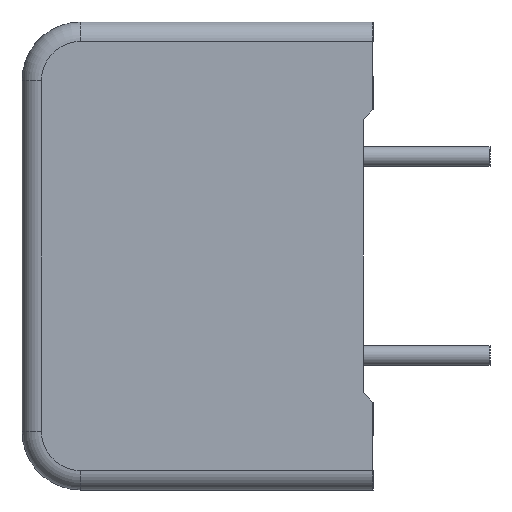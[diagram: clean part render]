
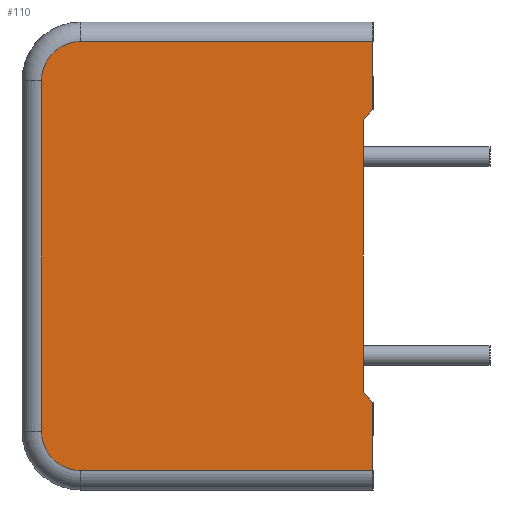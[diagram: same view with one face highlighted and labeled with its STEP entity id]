
A CAD part, left-side view. The second image highlights one B-rep face of the part: STEP entity #110.
In plain terms, the highlighted planar face has unit normal (-1, 0, 0).
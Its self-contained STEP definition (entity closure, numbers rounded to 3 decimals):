
#43 = CARTESIAN_POINT ( 'NONE',  ( -21., 18., -11. ) ) ;
#82 = DIRECTION ( 'NONE',  ( 0., 0., 1. ) ) ;
#110 = ADVANCED_FACE ( 'NONE', ( #620 ), #1619, .F. ) ;
#243 = CARTESIAN_POINT ( 'NONE',  ( -21., 15., -11. ) ) ;
#297 = DIRECTION ( 'NONE',  ( 0., 0., -1. ) ) ;
#408 = VERTEX_POINT ( 'NONE', #3155 ) ;
#590 = DIRECTION ( 'NONE',  ( 0., 0., -1. ) ) ;
#609 = LINE ( 'NONE', #4419, #4493 ) ;
#620 = FACE_OUTER_BOUND ( 'NONE', #1676, .T. ) ;
#663 = CARTESIAN_POINT ( 'NONE',  ( -21., 0., -12. ) ) ;
#707 = CARTESIAN_POINT ( 'NONE',  ( -21., 0.5, 7. ) ) ;
#761 = VERTEX_POINT ( 'NONE', #2085 ) ;
#849 = CARTESIAN_POINT ( 'NONE',  ( -21., 17., 9. ) ) ;
#858 = VERTEX_POINT ( 'NONE', #1442 ) ;
#901 = DIRECTION ( 'NONE',  ( 0., -1., 0. ) ) ;
#912 = VERTEX_POINT ( 'NONE', #1081 ) ;
#1047 = DIRECTION ( 'NONE',  ( 0., -0.707, 0.707 ) ) ;
#1053 = CARTESIAN_POINT ( 'NONE',  ( -21., 17., -9. ) ) ;
#1066 = CIRCLE ( 'NONE', #2297, 2. ) ;
#1081 = CARTESIAN_POINT ( 'NONE',  ( -21., 0., 11. ) ) ;
#1184 = CARTESIAN_POINT ( 'NONE',  ( -21., 0., -7.5 ) ) ;
#1216 = VERTEX_POINT ( 'NONE', #1422 ) ;
#1263 = CARTESIAN_POINT ( 'NONE',  ( -21., 0., -11. ) ) ;
#1389 = DIRECTION ( 'NONE',  ( 0., 0., -1. ) ) ;
#1391 = DIRECTION ( 'NONE',  ( 1., 0., 0. ) ) ;
#1396 = CARTESIAN_POINT ( 'NONE',  ( -21., 18., -12. ) ) ;
#1407 = VERTEX_POINT ( 'NONE', #849 ) ;
#1422 = CARTESIAN_POINT ( 'NONE',  ( -21., 15., 11. ) ) ;
#1442 = CARTESIAN_POINT ( 'NONE',  ( -21., 0., 7.5 ) ) ;
#1563 = EDGE_CURVE ( 'NONE', #2056, #4298, #1900, .T. ) ;
#1589 = CIRCLE ( 'NONE', #1604, 2. ) ;
#1604 = AXIS2_PLACEMENT_3D ( 'NONE', #2066, #4292, #2433 ) ;
#1619 = PLANE ( 'NONE',  #3648 ) ;
#1676 = EDGE_LOOP ( 'NONE', ( #3568, #3573, #3615, #3652, #3681, #3689, #3726, #3735, #3755, #3761 ) ) ;
#1710 = CARTESIAN_POINT ( 'NONE',  ( -21., 17., -9. ) ) ;
#1730 = VERTEX_POINT ( 'NONE', #1710 ) ;
#1787 = EDGE_CURVE ( 'NONE', #1730, #2056, #1589, .T. ) ;
#1800 = LINE ( 'NONE', #663, #3891 ) ;
#1879 = DIRECTION ( 'NONE',  ( 0., 1., 0. ) ) ;
#1900 = LINE ( 'NONE', #43, #2747 ) ;
#2011 = EDGE_CURVE ( 'NONE', #1407, #1730, #4469, .T. ) ;
#2056 = VERTEX_POINT ( 'NONE', #243 ) ;
#2066 = CARTESIAN_POINT ( 'NONE',  ( -21., 15., -9. ) ) ;
#2085 = CARTESIAN_POINT ( 'NONE',  ( -21., 0.5, 7. ) ) ;
#2164 = EDGE_CURVE ( 'NONE', #4298, #4064, #1800, .T. ) ;
#2252 = EDGE_CURVE ( 'NONE', #1216, #1407, #1066, .T. ) ;
#2278 = VECTOR ( 'NONE', #3512, 1000. ) ;
#2297 = AXIS2_PLACEMENT_3D ( 'NONE', #4374, #2541, #297 ) ;
#2298 = VECTOR ( 'NONE', #82, 1000. ) ;
#2433 = DIRECTION ( 'NONE',  ( 0., 0., -1. ) ) ;
#2503 = EDGE_CURVE ( 'NONE', #912, #1216, #609, .T. ) ;
#2541 = DIRECTION ( 'NONE',  ( -1., 0., 0. ) ) ;
#2736 = EDGE_CURVE ( 'NONE', #858, #912, #3077, .T. ) ;
#2747 = VECTOR ( 'NONE', #901, 1000. ) ;
#2965 = EDGE_CURVE ( 'NONE', #761, #858, #3835, .T. ) ;
#3077 = LINE ( 'NONE', #4246, #2298 ) ;
#3155 = CARTESIAN_POINT ( 'NONE',  ( -21., 0.5, -7. ) ) ;
#3158 = CARTESIAN_POINT ( 'NONE',  ( -21., 0., 7.5 ) ) ;
#3168 = VECTOR ( 'NONE', #3918, 1000. ) ;
#3179 = EDGE_CURVE ( 'NONE', #408, #761, #4068, .T. ) ;
#3190 = DIRECTION ( 'NONE',  ( 0., 0., 1. ) ) ;
#3208 = LINE ( 'NONE', #3907, #3168 ) ;
#3376 = EDGE_CURVE ( 'NONE', #4064, #408, #3208, .T. ) ;
#3512 = DIRECTION ( 'NONE',  ( 0., 0., 1. ) ) ;
#3568 = ORIENTED_EDGE ( 'NONE', *, *, #2164, .T. ) ;
#3573 = ORIENTED_EDGE ( 'NONE', *, *, #3376, .T. ) ;
#3615 = ORIENTED_EDGE ( 'NONE', *, *, #3179, .T. ) ;
#3648 = AXIS2_PLACEMENT_3D ( 'NONE', #1396, #1391, #1389 ) ;
#3652 = ORIENTED_EDGE ( 'NONE', *, *, #2965, .T. ) ;
#3681 = ORIENTED_EDGE ( 'NONE', *, *, #2736, .T. ) ;
#3689 = ORIENTED_EDGE ( 'NONE', *, *, #2503, .T. ) ;
#3726 = ORIENTED_EDGE ( 'NONE', *, *, #2252, .T. ) ;
#3735 = ORIENTED_EDGE ( 'NONE', *, *, #2011, .T. ) ;
#3755 = ORIENTED_EDGE ( 'NONE', *, *, #1787, .T. ) ;
#3761 = ORIENTED_EDGE ( 'NONE', *, *, #1563, .T. ) ;
#3792 = VECTOR ( 'NONE', #590, 1000. ) ;
#3835 = LINE ( 'NONE', #3158, #4310 ) ;
#3891 = VECTOR ( 'NONE', #3190, 1000. ) ;
#3907 = CARTESIAN_POINT ( 'NONE',  ( -21., 0.5, -7. ) ) ;
#3918 = DIRECTION ( 'NONE',  ( 0., 0.707, 0.707 ) ) ;
#4064 = VERTEX_POINT ( 'NONE', #1184 ) ;
#4068 = LINE ( 'NONE', #707, #2278 ) ;
#4246 = CARTESIAN_POINT ( 'NONE',  ( -21., 0., -12. ) ) ;
#4292 = DIRECTION ( 'NONE',  ( -1., 0., 0. ) ) ;
#4298 = VERTEX_POINT ( 'NONE', #1263 ) ;
#4310 = VECTOR ( 'NONE', #1047, 1000. ) ;
#4374 = CARTESIAN_POINT ( 'NONE',  ( -21., 15., 9. ) ) ;
#4419 = CARTESIAN_POINT ( 'NONE',  ( -21., 18., 11. ) ) ;
#4469 = LINE ( 'NONE', #1053, #3792 ) ;
#4493 = VECTOR ( 'NONE', #1879, 1000. ) ;
